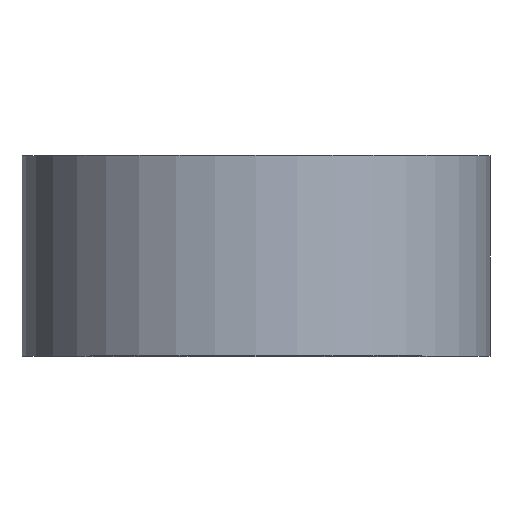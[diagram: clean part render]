
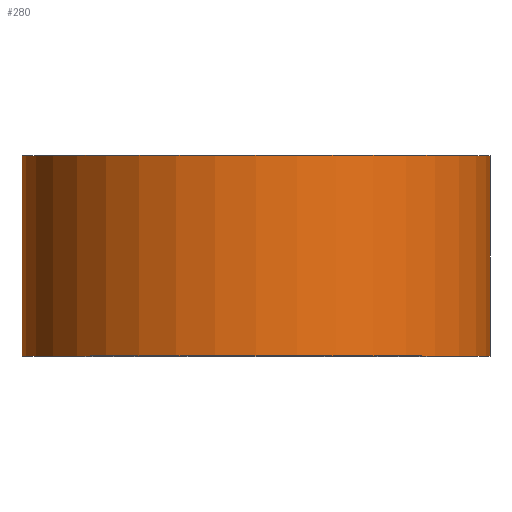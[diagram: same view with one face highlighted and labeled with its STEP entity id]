
A CAD part, top view. The second image highlights one B-rep face of the part: STEP entity #280.
In plain terms, the highlighted cylindrical face has radius 35 mm (diameter 70 mm), a partial arc.
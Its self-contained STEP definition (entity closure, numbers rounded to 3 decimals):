
#6 = AXIS2_PLACEMENT_3D ( 'NONE', #247, #102, #267 ) ;
#12 = CARTESIAN_POINT ( 'NONE',  ( 0., 0., 0. ) ) ;
#15 = CARTESIAN_POINT ( 'NONE',  ( -35., 0., 0. ) ) ;
#37 = CARTESIAN_POINT ( 'NONE',  ( 35., 0., 0. ) ) ;
#42 = CARTESIAN_POINT ( 'NONE',  ( 35., 0., 0. ) ) ;
#66 = VERTEX_POINT ( 'NONE', #152 ) ;
#67 = VECTOR ( 'NONE', #183, 1000. ) ;
#75 = VERTEX_POINT ( 'NONE', #264 ) ;
#78 = FACE_OUTER_BOUND ( 'NONE', #238, .T. ) ;
#85 = DIRECTION ( 'NONE',  ( 0., 1., 0. ) ) ;
#92 = CIRCLE ( 'NONE', #6, 35. ) ;
#102 = DIRECTION ( 'NONE',  ( 0., 1., 0. ) ) ;
#107 = DIRECTION ( 'NONE',  ( -1., 0., 0. ) ) ;
#115 = ORIENTED_EDGE ( 'NONE', *, *, #293, .T. ) ;
#126 = DIRECTION ( 'NONE',  ( 0., 1., 0. ) ) ;
#130 = EDGE_CURVE ( 'NONE', #300, #205, #235, .T. ) ;
#140 = AXIS2_PLACEMENT_3D ( 'NONE', #12, #126, #170 ) ;
#152 = CARTESIAN_POINT ( 'NONE',  ( 35., 30., 0. ) ) ;
#162 = EDGE_CURVE ( 'NONE', #75, #66, #92, .T. ) ;
#170 = DIRECTION ( 'NONE',  ( -1., 0., 0. ) ) ;
#174 = VECTOR ( 'NONE', #85, 1000. ) ;
#180 = DIRECTION ( 'NONE',  ( 0., 1., 0. ) ) ;
#182 = ORIENTED_EDGE ( 'NONE', *, *, #242, .F. ) ;
#183 = DIRECTION ( 'NONE',  ( 0., 1., 0. ) ) ;
#191 = AXIS2_PLACEMENT_3D ( 'NONE', #254, #180, #107 ) ;
#205 = VERTEX_POINT ( 'NONE', #42 ) ;
#220 = LINE ( 'NONE', #37, #174 ) ;
#235 = CIRCLE ( 'NONE', #140, 35. ) ;
#238 = EDGE_LOOP ( 'NONE', ( #263, #115, #259, #182 ) ) ;
#239 = CYLINDRICAL_SURFACE ( 'NONE', #191, 35. ) ;
#242 = EDGE_CURVE ( 'NONE', #300, #75, #262, .T. ) ;
#247 = CARTESIAN_POINT ( 'NONE',  ( 0., 30., 0. ) ) ;
#254 = CARTESIAN_POINT ( 'NONE',  ( 0., 0., 0. ) ) ;
#259 = ORIENTED_EDGE ( 'NONE', *, *, #162, .F. ) ;
#262 = LINE ( 'NONE', #272, #67 ) ;
#263 = ORIENTED_EDGE ( 'NONE', *, *, #130, .T. ) ;
#264 = CARTESIAN_POINT ( 'NONE',  ( -35., 30., 0. ) ) ;
#267 = DIRECTION ( 'NONE',  ( -1., 0., 0. ) ) ;
#272 = CARTESIAN_POINT ( 'NONE',  ( -35., 0., 0. ) ) ;
#280 = ADVANCED_FACE ( 'NONE', ( #78 ), #239, .T. ) ;
#293 = EDGE_CURVE ( 'NONE', #205, #66, #220, .T. ) ;
#300 = VERTEX_POINT ( 'NONE', #15 ) ;
